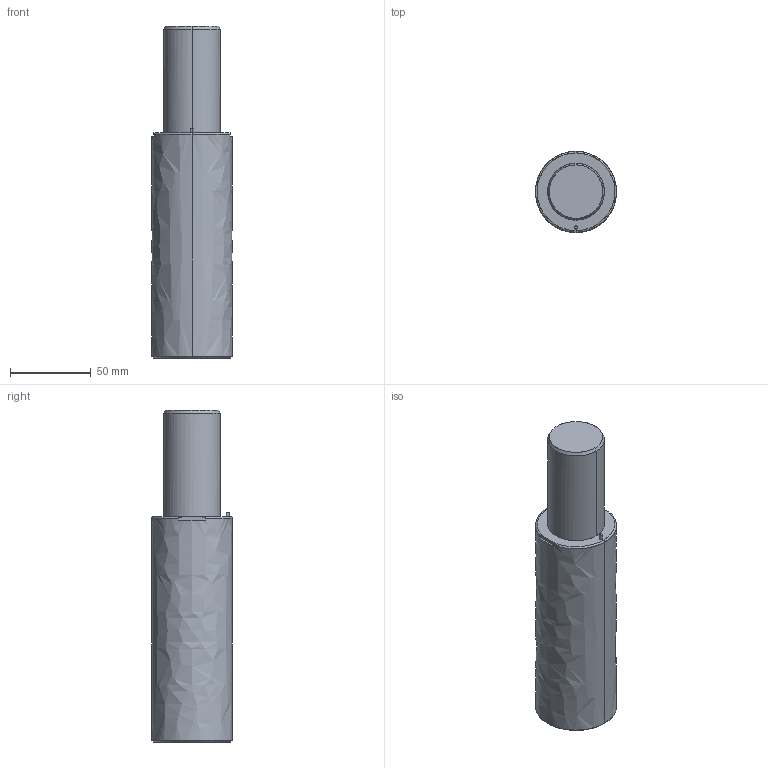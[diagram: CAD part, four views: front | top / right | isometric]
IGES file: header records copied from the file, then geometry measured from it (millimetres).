
Global section: file name: E:\UnigraphicsGraphicData\MISUMI_PRESS-PARTS\IGES\3d_gsx50-63_03962_r00.igs; native system: NX V5.0; preprocessor: UGS NX IGES V5.0; author: MISUMI; date: 20110105.160829; units: millimetre
Bounding box: 50 x 50 x 205 mm (x, y, z)
Surface area: 34486.8 mm2 (no closed solid volume)
Topology: 0 solids, 0 shells, 59 faces, 428 edges, 420 vertices
Faces by surface type: bspline 59
